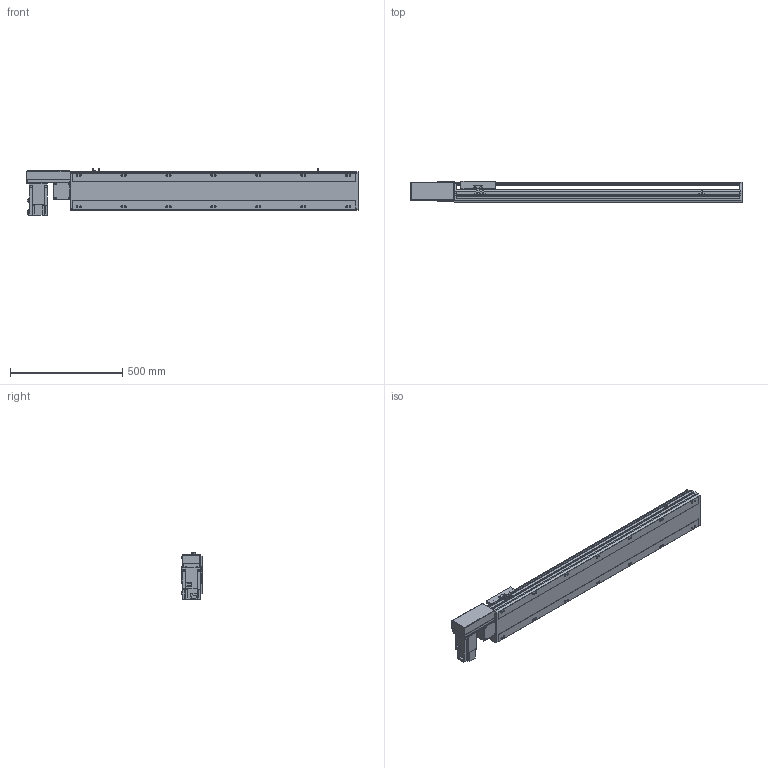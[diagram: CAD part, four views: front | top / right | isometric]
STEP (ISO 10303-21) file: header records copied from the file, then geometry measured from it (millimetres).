
FILE_DESCRIPTION( ( 'STEP AP214' ), '1' );
FILE_NAME( 'x:/temp/worker_4/temp/exporttempdir_2248_262_HQy9u/format_0/PBS170-P40-S1000-R-T75-C1-N(0).stp', '2022-06-07T07:29:59', ( 'License CC BY-ND 4.0' ), ( 'CADENAS' ), ' ', 'PARTsolutions', ' ' );
FILE_SCHEMA( ( 'AUTOMOTIVE_DESIGN { 1 0 10303 214 1 1 1 1 }' ) );
Length unit declared in the file: millimetre
Products named in the file (7): PBS170-P40-S1000-R-T75-C1-N(0); _PBS170-S1000()_body; _PBS170T-R_motors; _T75-p1; _PBS170_sliser; _PBS170_plant; _PBS170_sensor
Assembly tree (8 placements, depth 2):
  PBS170-P40-S1000-R-T75-C1-N(0)
    _PBS170-S1000()_body
    _PBS170T-R_motors
    _T75-p1
    _PBS170_sliser
    _PBS170_plant
    _PBS170_sensor  x3
Bounding box: 1478 x 97 x 205.3 mm (x, y, z)
Volume: 10992665.8 mm3; surface area: 1439294.7 mm2
Topology: 8 solids, 8 shells, 1066 faces, 2835 edges, 1848 vertices
Faces by surface type: plane 681, cylinder 331, cone 44, sphere 8, torus 2
Full cylindrical faces by diameter (mm): 3.242 x4, 4 x2, 4.4 x4, 4.5 x6, 4.917 x4, 6 x9, 6.647 x22, 7 x2, 7.5 x4, 8 x8, 8.5 x14, 10 x4, 10.5 x14, 11 x2, 30 x2, 40 x1, 70 x1
Entity records: 39098 total; most frequent: CARTESIAN_POINT 6053, DIRECTION 5230, ORIENTED_EDGE 4968, EDGE_CURVE 2484, AXIS2_PLACEMENT_3D 1807, VERTEX_POINT 1706, LINE 1616, VECTOR 1616
